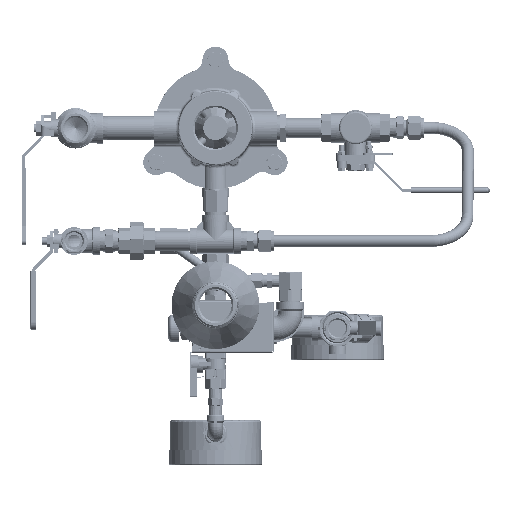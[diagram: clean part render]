
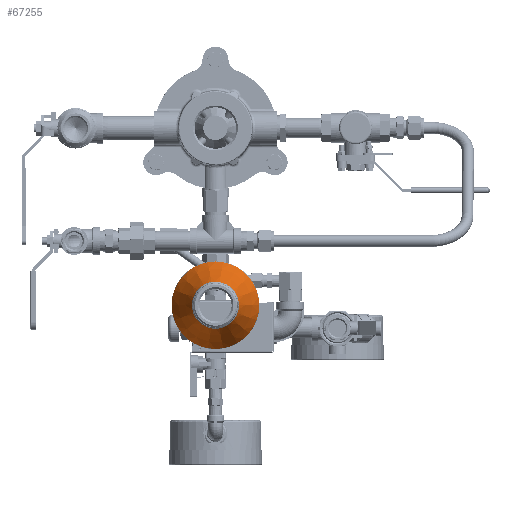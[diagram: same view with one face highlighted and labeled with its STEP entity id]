
A CAD part, left-side view. The second image highlights one B-rep face of the part: STEP entity #67255.
In plain terms, the highlighted conical face has half-angle 25.582 degrees and reference radius 36.25 mm.
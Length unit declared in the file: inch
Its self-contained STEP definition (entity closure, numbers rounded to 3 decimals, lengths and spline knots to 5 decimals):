
#13786=FACE_BOUND('',#21810,.T.);
#16756=FACE_OUTER_BOUND('',#21809,.T.);
#21809=EDGE_LOOP('',(#52130));
#21810=EDGE_LOOP('',(#52131));
#25670=CIRCLE('',#73170,1.86236);
#25671=CIRCLE('',#73172,1.00355);
#30591=VERTEX_POINT('',#111911);
#30592=VERTEX_POINT('',#111914);
#38155=EDGE_CURVE('',#30591,#30591,#25670,.T.);
#38156=EDGE_CURVE('',#30592,#30592,#25671,.T.);
#52130=ORIENTED_EDGE('',*,*,#38156,.F.);
#52131=ORIENTED_EDGE('',*,*,#38155,.F.);
#59988=CONICAL_SURFACE('',#73171,1.42717,0.446);
#67255=ADVANCED_FACE('',(#16756,#13786),#59988,.T.);
#73170=AXIS2_PLACEMENT_3D('',#111912,#87014,#87015);
#73171=AXIS2_PLACEMENT_3D('',#111913,#87016,#87017);
#73172=AXIS2_PLACEMENT_3D('',#111915,#87018,#87019);
#87014=DIRECTION('center_axis',(1.,0.,0.));
#87015=DIRECTION('ref_axis',(0.,-1.,0.));
#87016=DIRECTION('center_axis',(1.,0.,0.));
#87017=DIRECTION('ref_axis',(0.,1.,0.));
#87018=DIRECTION('center_axis',(-1.,0.,0.));
#87019=DIRECTION('ref_axis',(0.,-1.,0.));
#111911=CARTESIAN_POINT('',(-10.32185,3.35852,-7.77396));
#111912=CARTESIAN_POINT('Origin',(-10.32185,1.49616,-7.77396));
#111913=CARTESIAN_POINT('Origin',(-11.23092,1.49616,-7.77396));
#111914=CARTESIAN_POINT('',(-12.11581,2.49971,-7.77396));
#111915=CARTESIAN_POINT('Origin',(-12.11581,1.49616,-7.77396));
